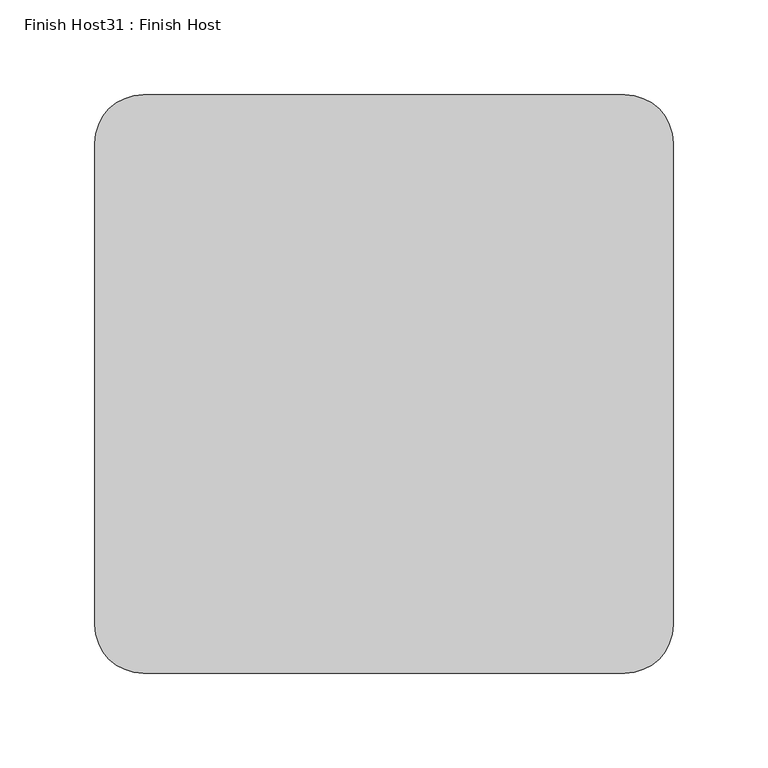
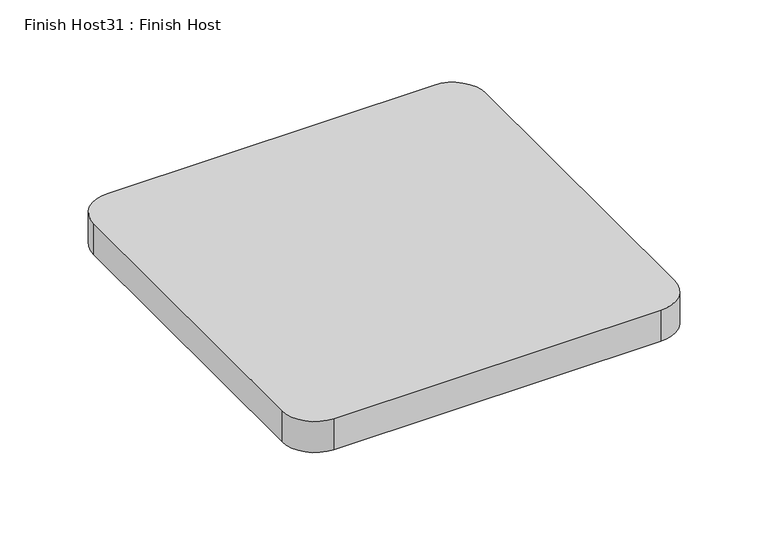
"""IFC4 building model written with IfcOpenShell, lengths in millimetres: proxy geometry, Finish Host31 : Finish Host."""

from ifc_helpers import new_model, si_unit, point, frame_2d, origin, origin_with_axes, place, context, project, spatial, polyline, circle_curve, trimmed, segment, composite_curve, outline, extrude, source, transform, mapped, element, save


def finish_host31_finish_host_bcdf27ec(model_context):
    return source(origin(), model_context, "Body", "SweptSolid", [
        extrude(outline(composite_curve([segment(polyline([(1799.7649374, 2632.9667263), (1799.7649374, 2886.9667263)]), True, "CONTINUOUS"), segment(trimmed(circle_curve(frame_2d((1825.1649374, 2886.9667263)), 25.4), [point((1799.7649374, 2886.9667263))], [point((1825.1649374, 2912.3667263))], False, "CARTESIAN"), True, "CONTINUOUS"), segment(polyline([(1825.1649374, 2912.3667263), (2079.1649374, 2912.3667263)]), True, "CONTINUOUS"), segment(trimmed(circle_curve(frame_2d((2079.1649374, 2886.9667263)), 25.4), [point((2079.1649374, 2912.3667263))], [point((2104.5649374, 2886.9667263))], False, "CARTESIAN"), True, "CONTINUOUS"), segment(polyline([(2104.5649374, 2886.9667263), (2104.5649374, 2632.9667263)]), True, "CONTINUOUS"), segment(trimmed(circle_curve(frame_2d((2079.1649374, 2632.9667263)), 25.4), [point((2104.5649374, 2632.9667263))], [point((2079.1649374, 2607.5667263))], False, "CARTESIAN"), True, "CONTINUOUS"), segment(polyline([(2079.1649374, 2607.5667263), (1825.1649374, 2607.5667263)]), True, "CONTINUOUS"), segment(trimmed(circle_curve(frame_2d((1825.1649374, 2632.9667263)), 25.4), [point((1825.1649374, 2607.5667263))], [point((1799.7649374, 2632.9667263))], False, "CARTESIAN"), True, "CONTINUOUS")], self_intersect=False)), origin_with_axes(), (0.0, 0.0, 1.0), 25.4),
    ])


if __name__ == "__main__":
    model = new_model("IFC4")
    model_context = context("Model", 3, world=origin())
    ifc_project = project(units=[si_unit("LENGTHUNIT", "METRE", prefix="MILLI")], contexts=[model_context])
    site = spatial("IfcSite", under=ifc_project)
    building = spatial("IfcBuilding", under=site)
    placement = place(None, origin())
    finish_host31_finish_host_shape = finish_host31_finish_host_bcdf27ec(model_context)
    element("IfcBuildingElementProxy", 1, Name="Finish Host31 : Finish Host", ObjectType="Finish Host31 : Finish Host", at=placement, inside=building, context=model_context, shape_type="MappedRepresentation", body=[
        mapped(finish_host31_finish_host_shape, transform((0.0, 0.0, 0.0), x_axis=(1.0, 0.0, 0.0), y_axis=(0.0, 1.0, 0.0), z_axis=(0.0, 0.0, 1.0))),
    ])
    save(model, "model.ifc")
